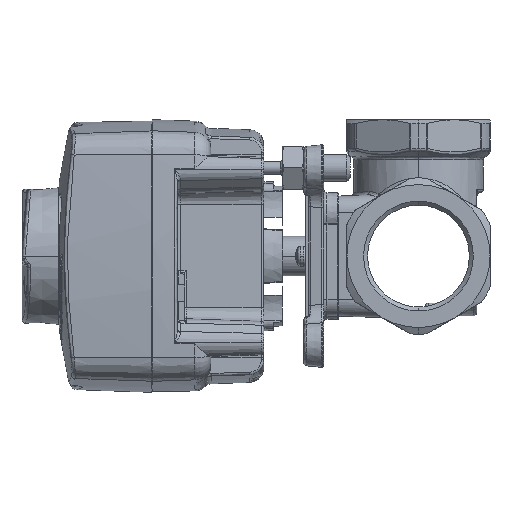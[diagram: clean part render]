
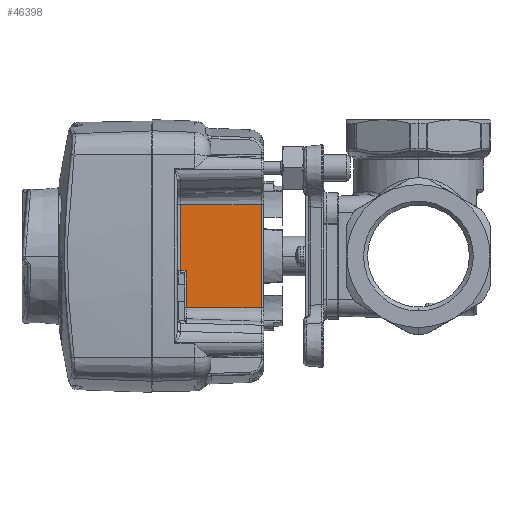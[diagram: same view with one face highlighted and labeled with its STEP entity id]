
A CAD part, left-side view. The second image highlights one B-rep face of the part: STEP entity #46398.
In plain terms, the highlighted planar face has unit normal (-0.999, -0.035, 0).
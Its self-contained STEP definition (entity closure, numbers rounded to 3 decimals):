
#568 = DIRECTION ( 'NONE',  ( 0.035, -0.999, 0. ) ) ;
#2009 = AXIS2_PLACEMENT_3D ( 'NONE', #16381, #23543, #73328 ) ;
#6028 = ORIENTED_EDGE ( 'NONE', *, *, #72264, .T. ) ;
#6471 = ORIENTED_EDGE ( 'NONE', *, *, #60230, .T. ) ;
#6745 = CARTESIAN_POINT ( 'NONE',  ( -15.357, 47.272, -89.619 ) ) ;
#7514 = EDGE_CURVE ( 'NONE', #42492, #74105, #86027, .T. ) ;
#8864 = VECTOR ( 'NONE', #88718, 1000. ) ;
#9294 = ORIENTED_EDGE ( 'NONE', *, *, #9409, .F. ) ;
#9409 = EDGE_CURVE ( 'NONE', #38304, #67662, #32267, .T. ) ;
#13516 = LINE ( 'NONE', #64588, #65778 ) ;
#14768 = EDGE_CURVE ( 'NONE', #74105, #86167, #86492, .T. ) ;
#15747 = LINE ( 'NONE', #67880, #36896 ) ;
#15790 = PLANE ( 'NONE',  #2009 ) ;
#16381 = CARTESIAN_POINT ( 'NONE',  ( -16.5, 80., -89.619 ) ) ;
#20253 = CARTESIAN_POINT ( 'NONE',  ( -16.204, 71.535, 15.5 ) ) ;
#23543 = DIRECTION ( 'NONE',  ( -0.999, -0.035, 0. ) ) ;
#23980 = VERTEX_POINT ( 'NONE', #20253 ) ;
#28306 = CARTESIAN_POINT ( 'NONE',  ( -16.204, 71.535, -4.371 ) ) ;
#28579 = CARTESIAN_POINT ( 'NONE',  ( -16.144, 69.817, -15.5 ) ) ;
#31613 = DIRECTION ( 'NONE',  ( 0., 0., -1. ) ) ;
#32092 = CARTESIAN_POINT ( 'NONE',  ( -15.357, 47.272, 15.5 ) ) ;
#32267 = LINE ( 'NONE', #6745, #70195 ) ;
#34406 = LINE ( 'NONE', #88414, #8864 ) ;
#36896 = VECTOR ( 'NONE', #61963, 1000. ) ;
#37302 = ORIENTED_EDGE ( 'NONE', *, *, #7514, .T. ) ;
#38304 = VERTEX_POINT ( 'NONE', #32092 ) ;
#42492 = VERTEX_POINT ( 'NONE', #28306 ) ;
#45107 = CARTESIAN_POINT ( 'NONE',  ( -15.357, 47.272, -15.5 ) ) ;
#46398 = ADVANCED_FACE ( 'NONE', ( #77583 ), #15790, .T. ) ;
#54290 = CARTESIAN_POINT ( 'NONE',  ( -16.204, 71.535, -4.371 ) ) ;
#55557 = DIRECTION ( 'NONE',  ( 0.035, -0.999, -0.035 ) ) ;
#58389 = EDGE_LOOP ( 'NONE', ( #59644, #6471, #9294, #65583, #6028, #37302 ) ) ;
#59644 = ORIENTED_EDGE ( 'NONE', *, *, #14768, .T. ) ;
#59910 = CARTESIAN_POINT ( 'NONE',  ( -16.144, 69.817, -89.619 ) ) ;
#60230 = EDGE_CURVE ( 'NONE', #86167, #67662, #13516, .T. ) ;
#61963 = DIRECTION ( 'NONE',  ( 0., 0., -1. ) ) ;
#64588 = CARTESIAN_POINT ( 'NONE',  ( -16.5, 80., -15.5 ) ) ;
#65412 = CARTESIAN_POINT ( 'NONE',  ( -16.144, 69.817, -4.431 ) ) ;
#65583 = ORIENTED_EDGE ( 'NONE', *, *, #74576, .T. ) ;
#65778 = VECTOR ( 'NONE', #568, 1000. ) ;
#67491 = VECTOR ( 'NONE', #31613, 1000. ) ;
#67662 = VERTEX_POINT ( 'NONE', #45107 ) ;
#67880 = CARTESIAN_POINT ( 'NONE',  ( -16.204, 71.535, -89.619 ) ) ;
#70195 = VECTOR ( 'NONE', #70794, 1000. ) ;
#70794 = DIRECTION ( 'NONE',  ( 0., 0., -1. ) ) ;
#72264 = EDGE_CURVE ( 'NONE', #23980, #42492, #15747, .T. ) ;
#73328 = DIRECTION ( 'NONE',  ( 0.035, -0.999, 0. ) ) ;
#74105 = VERTEX_POINT ( 'NONE', #65412 ) ;
#74576 = EDGE_CURVE ( 'NONE', #38304, #23980, #34406, .T. ) ;
#77583 = FACE_OUTER_BOUND ( 'NONE', #58389, .T. ) ;
#86027 = LINE ( 'NONE', #54290, #88255 ) ;
#86167 = VERTEX_POINT ( 'NONE', #28579 ) ;
#86492 = LINE ( 'NONE', #59910, #67491 ) ;
#88255 = VECTOR ( 'NONE', #55557, 1000. ) ;
#88414 = CARTESIAN_POINT ( 'NONE',  ( 17410.134, -498953.5, 15.5 ) ) ;
#88718 = DIRECTION ( 'NONE',  ( -0.035, 0.999, 0. ) ) ;
